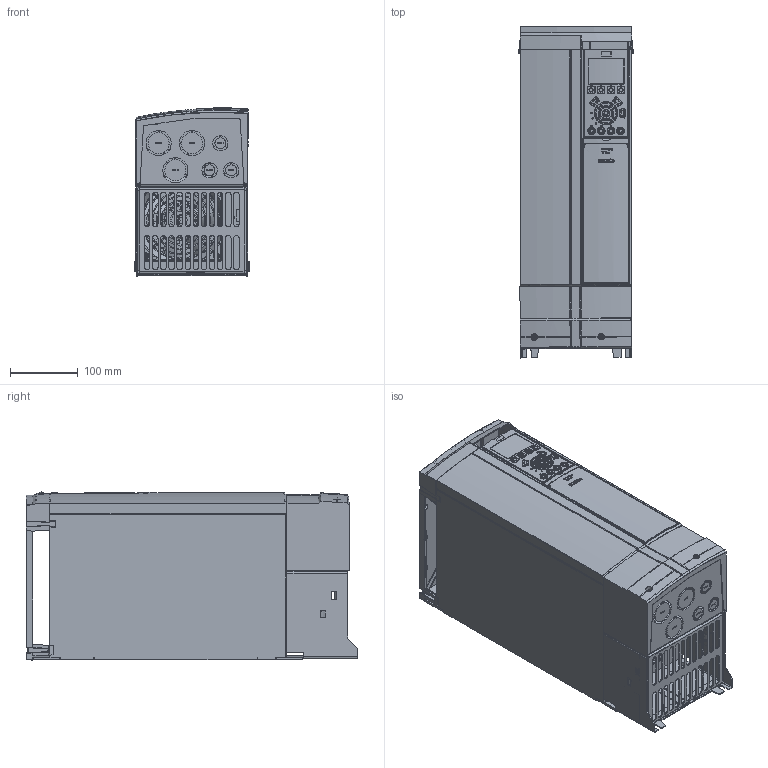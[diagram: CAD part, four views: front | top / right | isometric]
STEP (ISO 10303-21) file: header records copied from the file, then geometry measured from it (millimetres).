
FILE_DESCRIPTION((''),'2;1');
FILE_NAME('DANFOSS-FC100-B3-NEMA1-KIT-182','2008-07-10T',('Abhilash.Paramesh'),('dan Drives A/S'),'PRO/ENGINEER BY PARAMETRIC TECHNOLOGY CORPORATION, 2007160','PRO/ENGINEER BY PARAMETRIC TECHNOLOGY CORPORATION, 2007160','');
FILE_SCHEMA(('CONFIG_CONTROL_DESIGN', 'GEOMETRIC_VALIDATION_PROPERTIES_MIM'));
Length unit declared in the file: millimetre
Products named in the file (1): DANFOSS-FC100-B3-NEMA1-KIT-182
Bounding box: 169.82 x 490.92 x 248.8 mm (x, y, z)
Volume: 13979885 mm3; surface area: 898440.2 mm2
Topology: 2 solids, 21 shells, 6312 faces, 15984 edges, 9705 vertices
Faces by surface type: plane 2463, cylinder 2042, bspline 797, torus 461, sphere 332, cone 137, extrusion 80
Entity records: 312370 total; most frequent: CARTESIAN_POINT 93575, ORIENTED_EDGE 31736, DIRECTION 27498, PRESENTATION_STYLE_ASSIGNMENT 18687, STYLED_ITEM 16119, CURVE_STYLE 15868, EDGE_CURVE 15868, AXIS2_PLACEMENT_3D 9784
